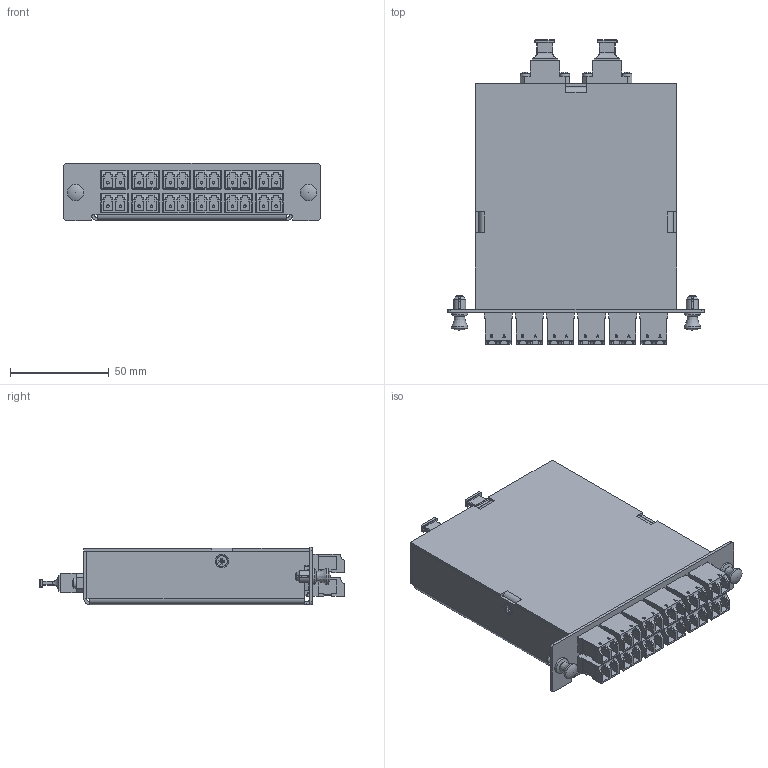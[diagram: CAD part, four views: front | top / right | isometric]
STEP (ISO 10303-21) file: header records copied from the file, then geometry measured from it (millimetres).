
FILE_DESCRIPTION(/* description */ ('STEP AP242','CAx-IF Rec.Pracs.---Representation and Presentation of Product Manufacturing Information (PMI)---4.0---2014-10-13','CAx-IF Rec.Pracs.---3D Tessellated Geometry---0.4---2014-09-14','2;1'),/* implementation_level */ '2;1');
FILE_NAME(/* name */ '650cbb1022b57549b5efcff6',/* time_stamp */ '2023-09-21T21:52:17Z',/* author */ (''),/* organization */ (''),/* preprocessor_version */ 'ST-DEVELOPER v19.4',/* originating_system */ ' ',/* authorisation */ ' ');
FILE_SCHEMA (('AP242_MANAGED_MODEL_BASED_3D_ENGINEERING_MIM_LF { 1 0 10303 442 1 1 4 }'));
Length unit declared in the file: metre
Products named in the file (16): MTPC-2M-24XXLC-1; PEM SMPS-M3; PH Countersunk flat head screw M3x0.5 x 5; User Library-Fiber Optic LC Adapters; Plunger - Mini Snap Latch; PH Pan head screw M2.5x0.45 x 6; Grommet - Mini Snap Latch; FOA-990A_3D <2>; FOA-991A-MA1; FOA-992B_WITH CHAMFERS; DSTCP-MTP-FOA_update 2011; Housing; Lid; FOA-990A_3D <1>
Assembly tree (38 placements, depth 3):
  MTPC-2M-24XXLC-1
    PEM SMPS-M3  x3
    PH Countersunk flat head screw M3x0.5 x 5  x3
    User Library-Fiber Optic LC Adapters  x12
    Plunger - Mini Snap Latch
    PH Pan head screw M2.5x0.45 x 6  x4
    Grommet - Mini Snap Latch
    FOA-990A_3D <2>
      FOA-991A-MA1  x2
      FOA-992B_WITH CHAMFERS
      DSTCP-MTP-FOA_update 2011
    Housing
    Grommet - Mini Snap Latch
    Lid
    FOA-990A_3D <1>
      FOA-991A-MA1  x2
      DSTCP-MTP-FOA_update 2011
      FOA-992B_WITH CHAMFERS
    Plunger - Mini Snap Latch
Bounding box: 130 x 154.44 x 29 mm (x, y, z)
Volume: 76958.3 mm3; surface area: 119001.5 mm2
Topology: 36 solids, 38 shells, 4185 faces, 11519 edges, 7534 vertices
Faces by surface type: plane 3482, cylinder 314, bspline 305, cone 57, torus 15, sphere 12
Full cylindrical faces by diameter (mm): 1.27 x24, 1.75 x4, 2.037 x2, 2.459 x3, 2.5 x4, 2.896 x4, 3 x3, 3.81 x6, 3.937 x2, 4.22 x3, 4.75 x3, 5 x4, 5.5 x3, 5.588 x2, 5.6 x3, 6 x2, 8.382 x4
Entity records: 29201 total; most frequent: CARTESIAN_POINT 6105, ORIENTED_EDGE 4648, DIRECTION 4383, EDGE_CURVE 2324, LINE 1823, VECTOR 1823, VERTEX_POINT 1542, AXIS2_PLACEMENT_3D 1280
